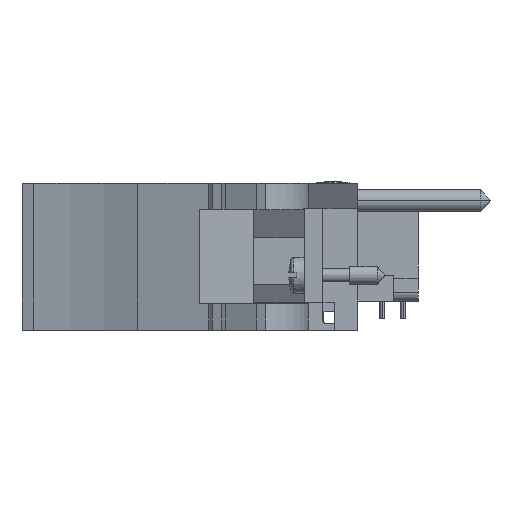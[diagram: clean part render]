
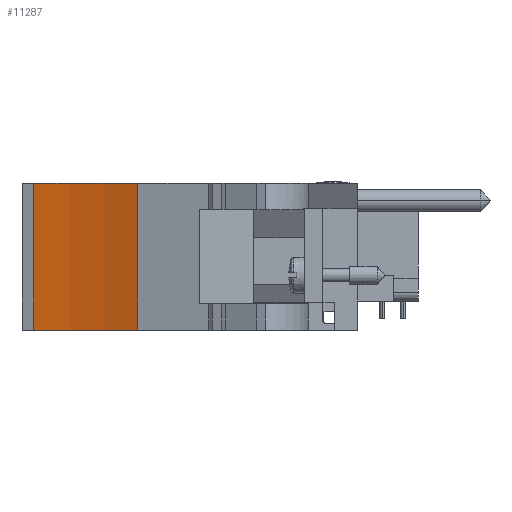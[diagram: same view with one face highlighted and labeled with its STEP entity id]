
A CAD part, front view. The second image highlights one B-rep face of the part: STEP entity #11287.
In plain terms, the highlighted cylindrical face has radius 51.46 mm (diameter 102.919 mm), a partial arc.
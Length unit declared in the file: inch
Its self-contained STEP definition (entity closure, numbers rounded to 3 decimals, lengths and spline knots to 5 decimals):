
#1526=CARTESIAN_POINT('',(-6.04901,-5.94828,
-0.09651));
#1527=DIRECTION('',(0.,0.,1.));
#1528=DIRECTION('',(0.435,0.9,0.));
#1529=AXIS2_PLACEMENT_3D('',#1526,#1527,#1528);
#1723=CARTESIAN_POINT('',(-6.04901,-5.94828,
0.69149));
#1724=DIRECTION('',(0.,0.,1.));
#1725=DIRECTION('',(0.435,0.9,0.));
#1726=AXIS2_PLACEMENT_3D('',#1723,#1724,#1725);
#1979=DIRECTION('',(0.,0.,1.));
#1980=VECTOR('',#1979,0.788);
#1981=CARTESIAN_POINT('',(-5.16697,-4.1244,
-0.09651));
#1982=LINE('',#1981,#1980);
#1995=DIRECTION('',(0.,0.,1.));
#1996=VECTOR('',#1995,0.788);
#1997=CARTESIAN_POINT('',(-5.72487,-3.94841,
-0.09651));
#1998=LINE('',#1997,#1996);
#8163=CARTESIAN_POINT('',(-5.16697,-4.1244,
-0.09651));
#8164=CARTESIAN_POINT('',(-5.72487,-3.94841,
-0.09651));
#8165=VERTEX_POINT('',#8163);
#8166=VERTEX_POINT('',#8164);
#8167=CARTESIAN_POINT('',(-5.16697,-4.1244,
0.69149));
#8168=CARTESIAN_POINT('',(-5.72487,-3.94841,
0.69149));
#8169=VERTEX_POINT('',#8167);
#8170=VERTEX_POINT('',#8168);
#11275=CARTESIAN_POINT('',(-6.04901,-5.94828,
0.69149));
#11276=DIRECTION('',(0.,0.,1.));
#11277=DIRECTION('',(0.,1.,0.));
#11278=AXIS2_PLACEMENT_3D('',#11275,#11276,#11277);
#11279=CYLINDRICAL_SURFACE('',#11278,2.02597);
#11280=ORIENTED_EDGE('',*,*,#10776,.T.);
#11282=ORIENTED_EDGE('',*,*,#11281,.T.);
#11283=ORIENTED_EDGE('',*,*,#10900,.F.);
#11284=ORIENTED_EDGE('',*,*,#11261,.F.);
#11285=EDGE_LOOP('',(#11280,#11282,#11283,#11284));
#11286=FACE_OUTER_BOUND('',#11285,.F.);
#11287=ADVANCED_FACE('',(#11286),#11279,.F.);
#1530=CIRCLE('',#1529,2.02597);
#1727=CIRCLE('',#1726,2.02597);
#10776=EDGE_CURVE('',#8165,#8166,#1530,.T.);
#10900=EDGE_CURVE('',#8169,#8170,#1727,.T.);
#11261=EDGE_CURVE('',#8165,#8169,#1982,.T.);
#11281=EDGE_CURVE('',#8166,#8170,#1998,.T.);
